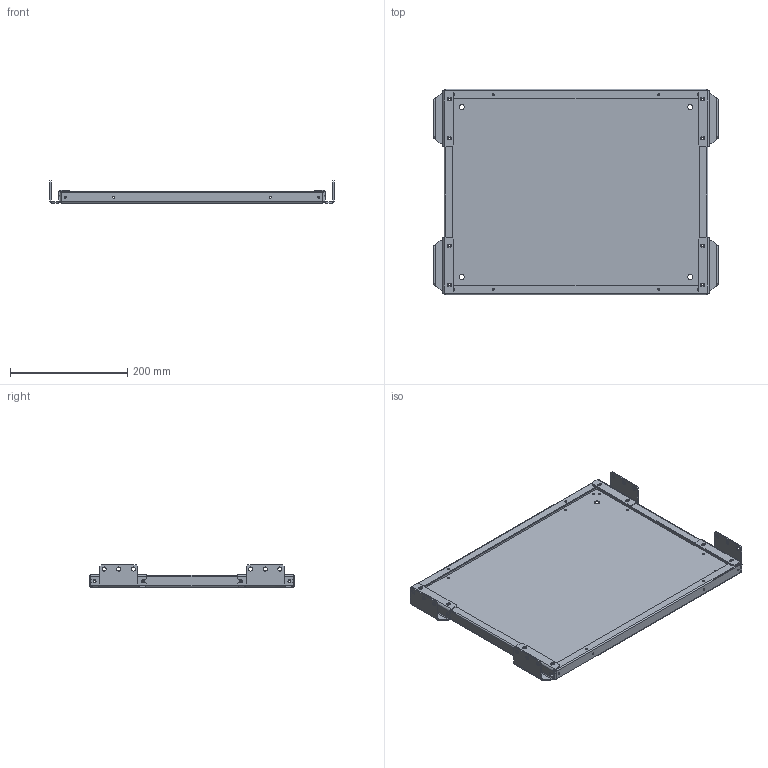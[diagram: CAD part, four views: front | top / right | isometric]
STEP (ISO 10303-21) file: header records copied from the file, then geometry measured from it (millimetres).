
FILE_DESCRIPTION (( 'STEP AP203' ), '1' );
FILE_NAME ('MP 45.35 M Ïàíåëü ìîíòàæíàÿ ñåêöèîííàÿ.STEP', '2013-01-09T13:27:32', ( 'System' ), ( '' ), 'SwSTEP 2.0', 'SolidWorks 2012', '' );
FILE_SCHEMA (( 'CONFIG_CONTROL_DESIGN' ));
Length unit declared in the file: millimetre
Products named in the file (1): MP 45.35 M Ïàíåëü ìîíòàæíàÿ ñåêöèîííàÿ
Bounding box: 485 x 350 x 37.75 mm (x, y, z)
Volume: 460731.9 mm3; surface area: 468834.3 mm2
Topology: 5 solids, 5 shells, 388 faces, 1016 edges, 632 vertices
Faces by surface type: cylinder 196, plane 168, bspline 16, sphere 8
Entity records: 12713 total; most frequent: CARTESIAN_POINT 2749, DIRECTION 2050, ORIENTED_EDGE 2016, EDGE_CURVE 1008, AXIS2_PLACEMENT_3D 733, VERTEX_POINT 632, LINE 584, VECTOR 584
